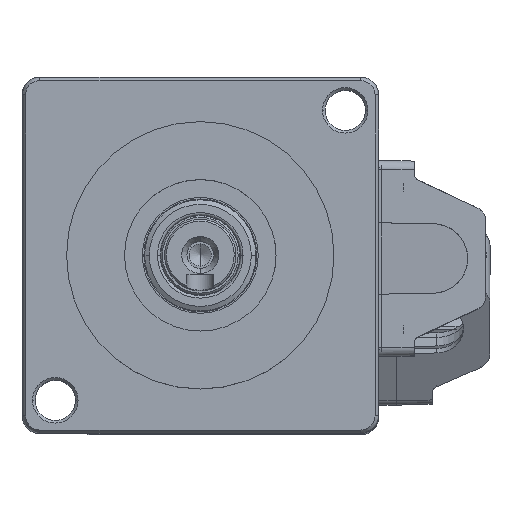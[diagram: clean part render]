
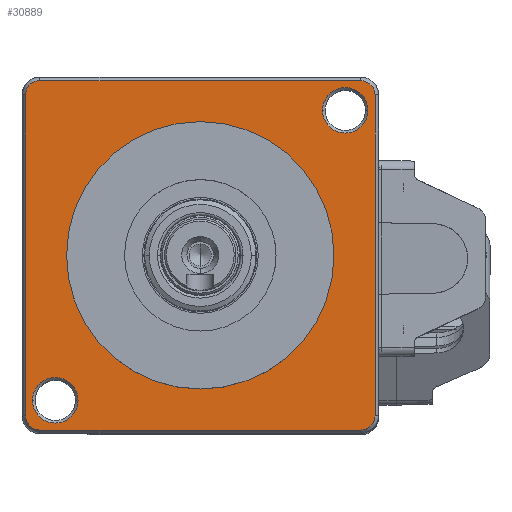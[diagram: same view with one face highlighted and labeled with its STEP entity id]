
A CAD part, top view. The second image highlights one B-rep face of the part: STEP entity #30889.
In plain terms, the highlighted planar face has unit normal (0, 0, 1).
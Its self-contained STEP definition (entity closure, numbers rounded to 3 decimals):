
#17 = CARTESIAN_POINT ( 'NONE',  ( -18., 60.4, 0.4 ) ) ;
#116 = DIRECTION ( 'NONE',  ( 0., 0., -1. ) ) ;
#662 = AXIS2_PLACEMENT_3D ( 'NONE', #4224, #116, #54105 ) ;
#1099 = VERTEX_POINT ( 'NONE', #10947 ) ;
#1895 = DIRECTION ( 'NONE',  ( 1., 0., 0. ) ) ;
#2113 = VECTOR ( 'NONE', #31651, 1000. ) ;
#2132 = EDGE_LOOP ( 'NONE', ( #54061, #52496 ) ) ;
#2373 = CIRCLE ( 'NONE', #34233, 1.6 ) ;
#3211 = DIRECTION ( 'NONE',  ( 1., 0., 0. ) ) ;
#3266 = LINE ( 'NONE', #11828, #36920 ) ;
#3437 = CARTESIAN_POINT ( 'NONE',  ( -16.263, 63.737, 0.4 ) ) ;
#3522 = LINE ( 'NONE', #53965, #4289 ) ;
#3538 = CARTESIAN_POINT ( 'NONE',  ( 18.813, 96.263, 0.4 ) ) ;
#4063 = CIRCLE ( 'NONE', #33280, 2.55 ) ;
#4224 = CARTESIAN_POINT ( 'NONE',  ( -18., 62., 0.4 ) ) ;
#4289 = VECTOR ( 'NONE', #24067, 1000. ) ;
#4834 = ORIENTED_EDGE ( 'NONE', *, *, #24818, .F. ) ;
#5460 = ORIENTED_EDGE ( 'NONE', *, *, #19024, .F. ) ;
#6153 = CARTESIAN_POINT ( 'NONE',  ( 0., 80., 0.4 ) ) ;
#6289 = CARTESIAN_POINT ( 'NONE',  ( 0., 80., 0.4 ) ) ;
#6495 = CIRCLE ( 'NONE', #33052, 2.55 ) ;
#6629 = ORIENTED_EDGE ( 'NONE', *, *, #31230, .F. ) ;
#7694 = CIRCLE ( 'NONE', #662, 1.6 ) ;
#8087 = DIRECTION ( 'NONE',  ( 0., 0., -1. ) ) ;
#10290 = EDGE_CURVE ( 'NONE', #15181, #42860, #3522, .T. ) ;
#10376 = CIRCLE ( 'NONE', #26224, 15. ) ;
#10399 = DIRECTION ( 'NONE',  ( 1., 0., 0. ) ) ;
#10462 = ORIENTED_EDGE ( 'NONE', *, *, #33901, .F. ) ;
#10627 = CARTESIAN_POINT ( 'NONE',  ( 18., 99.6, 0.4 ) ) ;
#10947 = CARTESIAN_POINT ( 'NONE',  ( -19.6, 98., 0.4 ) ) ;
#11245 = DIRECTION ( 'NONE',  ( 0., 0., -1. ) ) ;
#11828 = CARTESIAN_POINT ( 'NONE',  ( 0., 60.4, 0.4 ) ) ;
#12315 = VERTEX_POINT ( 'NONE', #12837 ) ;
#12837 = CARTESIAN_POINT ( 'NONE',  ( -13.713, 63.737, 0.4 ) ) ;
#12967 = CARTESIAN_POINT ( 'NONE',  ( -18., 98., 0.4 ) ) ;
#13509 = DIRECTION ( 'NONE',  ( 0., 0., -1. ) ) ;
#13589 = DIRECTION ( 'NONE',  ( 0., 0., -1. ) ) ;
#13737 = ORIENTED_EDGE ( 'NONE', *, *, #10290, .F. ) ;
#14071 = VERTEX_POINT ( 'NONE', #49780 ) ;
#14485 = AXIS2_PLACEMENT_3D ( 'NONE', #12967, #13509, #30433 ) ;
#14735 = LINE ( 'NONE', #23620, #2113 ) ;
#14761 = AXIS2_PLACEMENT_3D ( 'NONE', #6289, #23224, #1895 ) ;
#15142 = DIRECTION ( 'NONE',  ( 1., 0., 0. ) ) ;
#15181 = VERTEX_POINT ( 'NONE', #30546 ) ;
#15901 = VERTEX_POINT ( 'NONE', #3538 ) ;
#16112 = CARTESIAN_POINT ( 'NONE',  ( 19.6, 98., 0.4 ) ) ;
#16445 = VECTOR ( 'NONE', #35340, 1000. ) ;
#17635 = LINE ( 'NONE', #26230, #16445 ) ;
#18149 = EDGE_LOOP ( 'NONE', ( #34835, #49744 ) ) ;
#18525 = CARTESIAN_POINT ( 'NONE',  ( -18.813, 63.737, 0.4 ) ) ;
#18532 = FACE_BOUND ( 'NONE', #27259, .T. ) ;
#18754 = CARTESIAN_POINT ( 'NONE',  ( 16.263, 96.263, 0.4 ) ) ;
#18984 = VERTEX_POINT ( 'NONE', #36798 ) ;
#19024 = EDGE_CURVE ( 'NONE', #1099, #15181, #34833, .T. ) ;
#20458 = CARTESIAN_POINT ( 'NONE',  ( -15., 80., 0.4 ) ) ;
#21048 = EDGE_CURVE ( 'NONE', #31643, #52863, #50060, .T. ) ;
#21873 = DIRECTION ( 'NONE',  ( 0., 0., -1. ) ) ;
#22072 = VERTEX_POINT ( 'NONE', #18525 ) ;
#22137 = FACE_OUTER_BOUND ( 'NONE', #54650, .T. ) ;
#22673 = EDGE_CURVE ( 'NONE', #22072, #12315, #49720, .T. ) ;
#22722 = VERTEX_POINT ( 'NONE', #53596 ) ;
#23224 = DIRECTION ( 'NONE',  ( 0., 0., 1. ) ) ;
#23620 = CARTESIAN_POINT ( 'NONE',  ( 19.6, 80., 0.4 ) ) ;
#24067 = DIRECTION ( 'NONE',  ( 1., 0., 0. ) ) ;
#24672 = CARTESIAN_POINT ( 'NONE',  ( 15., 80., 0.4 ) ) ;
#24818 = EDGE_CURVE ( 'NONE', #28105, #22722, #14735, .T. ) ;
#25009 = DIRECTION ( 'NONE',  ( 1., 0., 0. ) ) ;
#25040 = DIRECTION ( 'NONE',  ( 1., 0., 0. ) ) ;
#25402 = EDGE_CURVE ( 'NONE', #14071, #15901, #49944, .T. ) ;
#26224 = AXIS2_PLACEMENT_3D ( 'NONE', #32606, #40884, #3211 ) ;
#26230 = CARTESIAN_POINT ( 'NONE',  ( -19.6, 80., 0.4 ) ) ;
#26234 = DIRECTION ( 'NONE',  ( 0., 0., -1. ) ) ;
#27259 = EDGE_LOOP ( 'NONE', ( #31482, #52904 ) ) ;
#28105 = VERTEX_POINT ( 'NONE', #16112 ) ;
#28613 = VERTEX_POINT ( 'NONE', #17 ) ;
#29208 = EDGE_CURVE ( 'NONE', #15901, #14071, #4063, .T. ) ;
#30433 = DIRECTION ( 'NONE',  ( 1., 0., 0. ) ) ;
#30546 = CARTESIAN_POINT ( 'NONE',  ( -18., 99.6, 0.4 ) ) ;
#30889 = ADVANCED_FACE ( 'NONE', ( #22137, #18532, #35405, #31263 ), #44259, .T. ) ;
#31230 = EDGE_CURVE ( 'NONE', #22722, #41880, #2373, .T. ) ;
#31263 = FACE_BOUND ( 'NONE', #18149, .T. ) ;
#31482 = ORIENTED_EDGE ( 'NONE', *, *, #21048, .F. ) ;
#31643 = VERTEX_POINT ( 'NONE', #24672 ) ;
#31651 = DIRECTION ( 'NONE',  ( 0., -1., 0. ) ) ;
#32499 = CIRCLE ( 'NONE', #52815, 1.6 ) ;
#32606 = CARTESIAN_POINT ( 'NONE',  ( 0., 80., 0.4 ) ) ;
#33052 = AXIS2_PLACEMENT_3D ( 'NONE', #46067, #8087, #25009 ) ;
#33280 = AXIS2_PLACEMENT_3D ( 'NONE', #33813, #13589, #38785 ) ;
#33547 = EDGE_CURVE ( 'NONE', #28613, #18984, #7694, .T. ) ;
#33774 = ORIENTED_EDGE ( 'NONE', *, *, #33547, .F. ) ;
#33813 = CARTESIAN_POINT ( 'NONE',  ( 16.263, 96.263, 0.4 ) ) ;
#33901 = EDGE_CURVE ( 'NONE', #41880, #28613, #3266, .T. ) ;
#34064 = DIRECTION ( 'NONE',  ( 1., 0., 0. ) ) ;
#34233 = AXIS2_PLACEMENT_3D ( 'NONE', #47564, #26234, #10399 ) ;
#34351 = DIRECTION ( 'NONE',  ( 0., 0., 1. ) ) ;
#34591 = DIRECTION ( 'NONE',  ( 1., 0., 0. ) ) ;
#34833 = CIRCLE ( 'NONE', #14485, 1.6 ) ;
#34835 = ORIENTED_EDGE ( 'NONE', *, *, #40013, .T. ) ;
#34862 = ORIENTED_EDGE ( 'NONE', *, *, #46407, .F. ) ;
#35340 = DIRECTION ( 'NONE',  ( 0., 1., 0. ) ) ;
#35405 = FACE_BOUND ( 'NONE', #2132, .T. ) ;
#36505 = AXIS2_PLACEMENT_3D ( 'NONE', #3437, #49703, #25040 ) ;
#36798 = CARTESIAN_POINT ( 'NONE',  ( -19.6, 62., 0.4 ) ) ;
#36920 = VECTOR ( 'NONE', #37603, 1000. ) ;
#37603 = DIRECTION ( 'NONE',  ( -1., 0., 0. ) ) ;
#38666 = ORIENTED_EDGE ( 'NONE', *, *, #54644, .F. ) ;
#38785 = DIRECTION ( 'NONE',  ( 1., 0., 0. ) ) ;
#39560 = CARTESIAN_POINT ( 'NONE',  ( 18., 98., 0.4 ) ) ;
#40013 = EDGE_CURVE ( 'NONE', #12315, #22072, #6495, .T. ) ;
#40884 = DIRECTION ( 'NONE',  ( 0., 0., 1. ) ) ;
#41880 = VERTEX_POINT ( 'NONE', #49399 ) ;
#42085 = AXIS2_PLACEMENT_3D ( 'NONE', #6153, #34351, #34064 ) ;
#42860 = VERTEX_POINT ( 'NONE', #10627 ) ;
#44259 = PLANE ( 'NONE',  #14761 ) ;
#46067 = CARTESIAN_POINT ( 'NONE',  ( -16.263, 63.737, 0.4 ) ) ;
#46407 = EDGE_CURVE ( 'NONE', #18984, #1099, #17635, .T. ) ;
#47564 = CARTESIAN_POINT ( 'NONE',  ( 18., 62., 0.4 ) ) ;
#47981 = EDGE_CURVE ( 'NONE', #52863, #31643, #10376, .T. ) ;
#49399 = CARTESIAN_POINT ( 'NONE',  ( 18., 60.4, 0.4 ) ) ;
#49703 = DIRECTION ( 'NONE',  ( 0., 0., -1. ) ) ;
#49720 = CIRCLE ( 'NONE', #36505, 2.55 ) ;
#49744 = ORIENTED_EDGE ( 'NONE', *, *, #22673, .T. ) ;
#49780 = CARTESIAN_POINT ( 'NONE',  ( 13.713, 96.263, 0.4 ) ) ;
#49944 = CIRCLE ( 'NONE', #53523, 2.55 ) ;
#50060 = CIRCLE ( 'NONE', #42085, 15. ) ;
#52496 = ORIENTED_EDGE ( 'NONE', *, *, #25402, .T. ) ;
#52815 = AXIS2_PLACEMENT_3D ( 'NONE', #39560, #21873, #34591 ) ;
#52863 = VERTEX_POINT ( 'NONE', #20458 ) ;
#52904 = ORIENTED_EDGE ( 'NONE', *, *, #47981, .F. ) ;
#53523 = AXIS2_PLACEMENT_3D ( 'NONE', #18754, #11245, #15142 ) ;
#53596 = CARTESIAN_POINT ( 'NONE',  ( 19.6, 62., 0.4 ) ) ;
#53965 = CARTESIAN_POINT ( 'NONE',  ( 0., 99.6, 0.4 ) ) ;
#54061 = ORIENTED_EDGE ( 'NONE', *, *, #29208, .T. ) ;
#54105 = DIRECTION ( 'NONE',  ( 1., 0., 0. ) ) ;
#54644 = EDGE_CURVE ( 'NONE', #42860, #28105, #32499, .T. ) ;
#54650 = EDGE_LOOP ( 'NONE', ( #4834, #38666, #13737, #5460, #34862, #33774, #10462, #6629 ) ) ;
